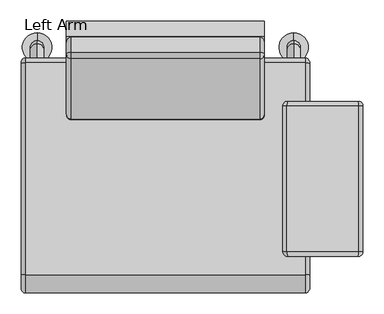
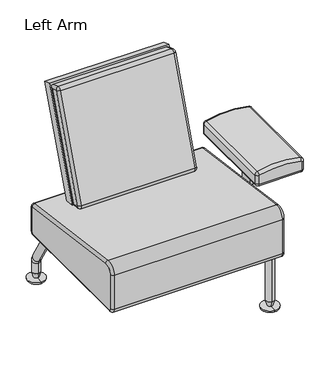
"""IFC4 building model written with IfcOpenShell, lengths in millimetres: furniture geometry, Steelcase Coalesse - Sidewalk - Seating - Collaborative Chair : Left Arm."""

from ifc_helpers import new_model, si_unit, point, frame, origin, place, context, project, spatial, polyline, circle_curve, ellipse_curve, trimmed, outline, extrude, source, transform, mapped, element, save
from ifc_brep_helpers import plane_surface, cylinder_surface, revolved_surface, advanced_brep


def left_arm_1d3a6ddb(model_context):
    return source(origin(), model_context, "Body", "SolidModel", [
        advanced_brep(
        [(122.9089794, 412.7742549, 335.1190448), (122.9089794, 414.1472627, 333.546102), (122.9089794, 414.1472627, 228.6), (122.9089794, 412.5597627, 227.0125), (122.9089794, -114.4902373, 227.0125), (122.9089794, -122.4277373, 234.95), (122.9089794, -122.4277373, 377.1837519), (122.9089794, -91.7938701, 403.9237811), (808.7089794, -91.7938701, 403.9237811), (808.7089794, -122.4277373, 377.1837519), (808.7089794, -122.4277373, 234.95), (808.7089794, -114.4902373, 227.0125), (808.7089794, 412.5597627, 227.0125), (808.7089794, 414.1472627, 228.6), (808.7089794, 414.1472627, 333.546102), (808.7089794, 412.7742549, 335.1190448), (797.5964794, -90.2924248, 414.9343814), (797.5964794, 414.2757002, 346.1296451), (134.0214794, 414.2757002, 346.1296451), (134.0214794, -90.2924248, 414.9343814), (797.5964794, 425.2597627, 333.546102), (134.0214794, 425.2597627, 333.546102), (797.5964794, 425.2597627, 228.6), (134.0214794, 425.2597627, 228.6), (797.5964794, 412.5597627, 215.9), (134.0214794, 412.5597627, 215.9), (797.5964794, -114.4902373, 215.9), (134.0214794, -114.4902373, 215.9), (797.5964794, -133.5402373, 234.95), (134.0214726, -133.5402373, 234.95), (797.5964794, -133.5402373, 377.1837519), (134.0214794, -133.5402373, 377.1837519)],
        [
            (0, 1, circle_curve(frame((122.9089794, 412.5597627, 333.546102), z_axis=(-1.0, 0.0, 0.0), x_axis=(0.0, 0.13511318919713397, 0.9908301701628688)), 1.5875)),
            (1, 2),
            (2, 3, circle_curve(frame((122.9089794, 412.5597627, 228.6), z_axis=(-1.0, 0.0, 0.0), x_axis=(0.0, 1.0, 0.0)), 1.5875)),
            (3, 4),
            (4, 5, circle_curve(frame((122.9089794, -114.4902373, 234.95), z_axis=(-1.0, 0.0, 0.0), x_axis=(0.0, 0.0, -1.0)), 7.9375)),
            (5, 6),
            (6, 7, circle_curve(frame((122.9089794, -95.4402373, 377.1837519), z_axis=(-1.0, 0.0, 0.0), x_axis=(0.0, -1.0, 0.0)), 26.9875)),
            (7, 0),
            (8, 9, circle_curve(frame((808.7089794, -95.4402373, 377.1837519), z_axis=(1.0, 0.0, 0.0), x_axis=(0.0, 0.13511318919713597, 0.9908301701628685)), 26.9875)),
            (9, 10),
            (10, 11, circle_curve(frame((808.7089794, -114.4902373, 234.95), z_axis=(1.0, 0.0, 0.0), x_axis=(0.0, -1.0, 0.0)), 7.9375)),
            (11, 12),
            (12, 13, circle_curve(frame((808.7089794, 412.5597627, 228.6), z_axis=(1.0, 0.0, 0.0), x_axis=(0.0, 0.0, -1.0)), 1.5875)),
            (13, 14),
            (14, 15, circle_curve(frame((808.7089794, 412.5597627, 333.546102), z_axis=(1.0, 0.0, 0.0), x_axis=(0.0, 1.0, 0.0)), 1.5875)),
            (15, 8),
            (16, 17),
            (17, 18),
            (18, 19),
            (19, 16),
            (17, 20, circle_curve(frame((797.5964794, 412.5597627, 333.546102), z_axis=(-1.0, 0.0, 0.0), x_axis=(0.0, -1.0, 0.0)), 12.7)),
            (20, 21),
            (21, 18, circle_curve(frame((134.0214794, 412.5597627, 333.546102), z_axis=(1.0, 0.0, 0.0), x_axis=(0.0, -1.0, 0.0)), 12.7)),
            (20, 22),
            (22, 23),
            (23, 21),
            (22, 24, circle_curve(frame((797.5964794, 412.5597627, 228.6), z_axis=(-1.0, 0.0, 0.0), x_axis=(0.0, -1.0, 0.0)), 12.7)),
            (24, 25),
            (25, 23, circle_curve(frame((134.0214794, 412.5597627, 228.6), z_axis=(1.0, 0.0, 0.0), x_axis=(0.0, -1.0, 0.0)), 12.7)),
            (24, 26),
            (26, 27),
            (27, 25),
            (26, 28, circle_curve(frame((797.5964794, -114.4902373, 234.95), z_axis=(-1.0, 0.0, 0.0), x_axis=(0.0, -1.0, 0.0)), 19.05)),
            (28, 29),
            (29, 27, circle_curve(frame((134.0214794, -114.4902373, 234.95), z_axis=(1.0, 0.0, 0.0), x_axis=(0.0, -1.0, 0.0)), 19.05)),
            (28, 30),
            (30, 31),
            (31, 29),
            (30, 16, circle_curve(frame((797.5964794, -95.4402373, 377.1837519), z_axis=(-1.0, 0.0, 0.0), x_axis=(0.0, -1.0, 0.0)), 38.1)),
            (19, 31, circle_curve(frame((134.0214794, -95.4402373, 377.1837519), z_axis=(1.0, 0.0, 0.0), x_axis=(0.0, -1.0, 0.0)), 38.1)),
            (30, 9, circle_curve(frame((797.5964794, -122.4277373, 377.1837519), z_axis=(0.0, 0.0, 0.9999999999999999), x_axis=(0.0, -0.9999999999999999, 0.0)), 11.1125)),
            (8, 16, circle_curve(frame((797.5964794, -91.7938701, 403.9237811), z_axis=(0.0, -0.9908301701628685, 0.13511318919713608), x_axis=(0.0, 0.13511318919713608, 0.9908301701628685)), 11.1125)),
            (28, 10, circle_curve(frame((797.5964794, -122.4277373, 234.95), z_axis=(0.0, 0.0, 1.0), x_axis=(0.0, -1.0, 0.0)), 11.1125)),
            (26, 11, circle_curve(frame((797.5964794, -114.4902373, 227.0125), z_axis=(0.0, -1.0, 0.0), x_axis=(0.0, 0.0, -1.0)), 11.1125)),
            (24, 12, circle_curve(frame((797.5964794, 412.5597627, 227.0125), z_axis=(0.0, -1.0, 0.0), x_axis=(0.0, 0.0, -1.0)), 11.1125)),
            (22, 13, circle_curve(frame((797.5964794, 414.1472627, 228.6), z_axis=(0.0, 0.0, -1.0), x_axis=(0.0, 1.0, 0.0)), 11.1125)),
            (20, 14, circle_curve(frame((797.5964794, 414.1472627, 333.546102), z_axis=(0.0, 0.0, -1.0), x_axis=(0.0, 1.0, 0.0)), 11.1125)),
            (17, 15, circle_curve(frame((797.5964794, 412.7742549, 335.1190448), z_axis=(0.0, 0.9908301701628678, -0.1351131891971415), x_axis=(0.0, 0.1351131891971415, 0.9908301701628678)), 11.1125)),
            (21, 1, circle_curve(frame((134.0214794, 414.1472627, 333.546102), z_axis=(0.0, 0.0, 1.0), x_axis=(0.0, -1.0, 0.0)), 11.1125)),
            (0, 18, circle_curve(frame((134.0214794, 412.7742549, 335.1190448), z_axis=(0.0, 0.9908301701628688, -0.13511318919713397), x_axis=(0.0, -0.13511318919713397, -0.9908301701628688)), 11.1125)),
            (23, 2, circle_curve(frame((134.0214794, 414.1472627, 228.6), z_axis=(0.0, 0.0, 1.0), x_axis=(0.0, -1.0, 0.0)), 11.1125)),
            (25, 3, circle_curve(frame((134.0214794, 412.5597627, 227.0125), z_axis=(0.0, 1.0, 0.0), x_axis=(0.0, 0.0, 1.0)), 11.1125)),
            (27, 4, circle_curve(frame((134.0214794, -114.4902373, 227.0125), z_axis=(0.0, 1.0, 0.0), x_axis=(0.0, 0.0, 1.0)), 11.1125)),
            (29, 5, circle_curve(frame((134.0214794, -122.4277373, 234.95), z_axis=(0.0, 0.0, -1.0), x_axis=(0.0, 1.0, 0.0)), 11.1125)),
            (31, 6, circle_curve(frame((134.0214794, -122.4277373, 377.1837519), z_axis=(0.0, 0.0, -1.0), x_axis=(0.0, 1.0, 0.0)), 11.1125)),
            (19, 7, circle_curve(frame((134.0214794, -91.7938701, 403.9237811), z_axis=(0.0, -0.9908301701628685, 0.1351131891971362), x_axis=(0.0, -0.1351131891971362, -0.9908301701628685)), 11.1125)),
        ],
        [
            plane_surface(frame((122.9089794, 564.9597627, 325.5818208), z_axis=(-1.0000000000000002, 0.0, 0.0), x_axis=(0.0, 0.9908301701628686, -0.1351131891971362))),
            plane_surface(frame((808.7089794, 564.9597627, 325.5818208), z_axis=(1.0000000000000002, 0.0, 0.0), x_axis=(0.0, -0.9908301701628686, 0.1351131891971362))),
            plane_surface(frame((122.9089794, -90.2924248, 414.9343814), z_axis=(0.0, 0.1351131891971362, 0.9908301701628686), x_axis=(1.0, 0.0, 0.0))),
            cylinder_surface(frame((808.7089794, 412.5597627, 333.546102), z_axis=(-1.0, 0.0, 0.0), x_axis=(0.0, -1.0, 0.0)), 12.7),
            plane_surface(frame((122.9089794, 425.2597627, 333.546102), z_axis=(0.0, 1.0, 0.0), x_axis=(1.0, 0.0, 0.0))),
            cylinder_surface(frame((808.7089794, 412.5597627, 228.6), z_axis=(-1.0, 0.0, 0.0), x_axis=(0.0, -1.0, 0.0)), 12.7),
            plane_surface(frame((122.9089794, 412.5597627, 215.9), z_axis=(0.0, 0.0, -1.0), x_axis=(1.0, 0.0, 0.0))),
            cylinder_surface(frame((808.7089794, -114.4902373, 234.95), z_axis=(-1.0, 0.0, 0.0), x_axis=(0.0, -1.0, 0.0)), 19.05),
            plane_surface(frame((122.9089794, -133.5402373, 234.95), z_axis=(0.0, -1.0, 0.0), x_axis=(1.0, 0.0, 0.0))),
            cylinder_surface(frame((808.7089794, -95.4402373, 377.1837519), z_axis=(-1.0, 0.0, 0.0), x_axis=(0.0, -1.0, 0.0)), 38.1),
            revolved_surface(trimmed(ellipse_curve(frame((797.5964794, -91.7938701, 403.9237811), z_axis=(0.0, 0.9908301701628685, -0.13511318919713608), x_axis=(0.0, 0.13511318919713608, 0.9908301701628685)), 11.1125, 11.1125), [point((797.5964794, -90.2924248, 414.9343814))], [point((808.7089794, -91.7938701, 403.9237811))], True, "CARTESIAN"), (808.7089794, -95.4402373, 377.1837519), (1.0, 0.0, 0.0)),
            cylinder_surface(frame((797.5964794, -122.4277373, 377.1837519), z_axis=(0.0, 0.0, -1.0), x_axis=(0.0, -1.0, 0.0)), 11.1125),
            revolved_surface(trimmed(ellipse_curve(frame((797.5964794, -122.4277373, 234.95), z_axis=(0.0, 0.0, 1.0), x_axis=(0.0, -1.0, 0.0)), 11.1125, 11.1125), [point((797.5964794, -133.5402373, 234.95))], [point((808.7089794, -122.4277373, 234.95))], True, "CARTESIAN"), (808.7089794, -114.4902373, 234.95), (1.0, 0.0, 0.0)),
            cylinder_surface(frame((797.5964794, -114.4902373, 227.0125), z_axis=(0.0, 1.0, 0.0), x_axis=(0.0, 0.0, -1.0)), 11.1125),
            revolved_surface(trimmed(ellipse_curve(frame((797.5964794, 412.5597627, 227.0125), z_axis=(0.0, -1.0, 0.0), x_axis=(0.0, 0.0, -1.0)), 11.1125, 11.1125), [point((797.5964794, 412.5597627, 215.9))], [point((808.7089794, 412.5597627, 227.0125))], True, "CARTESIAN"), (808.7089794, 412.5597627, 228.6), (1.0, 0.0, 0.0)),
            cylinder_surface(frame((797.5964794, 414.1472627, 228.6), z_axis=(0.0, 0.0, 1.0), x_axis=(0.0, 1.0, 0.0)), 11.1125),
            revolved_surface(trimmed(ellipse_curve(frame((797.5964794, 414.1472627, 333.546102), z_axis=(0.0, 0.0, -1.0), x_axis=(0.0, 1.0, 0.0)), 11.1125, 11.1125), [point((797.5964794, 425.2597627, 333.546102))], [point((808.7089794, 414.1472627, 333.546102))], True, "CARTESIAN"), (808.7089794, 412.5597627, 333.546102), (1.0, 0.0, 0.0)),
            cylinder_surface(frame((797.5964794, 412.7742549, 335.1190448), z_axis=(0.0, -0.9908301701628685, 0.13511318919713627), x_axis=(0.0, 0.13511318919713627, 0.9908301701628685)), 11.1125),
            revolved_surface(trimmed(ellipse_curve(frame((134.0214794, 412.7742549, 335.1190448), z_axis=(0.0, -0.9908301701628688, 0.13511318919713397), x_axis=(0.0, -0.13511318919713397, -0.9908301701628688)), 11.1125, 11.1125), [point((134.0214794, 414.2757002, 346.1296451))], [point((122.9089794, 412.7742549, 335.1190448))], True, "CARTESIAN"), (122.9089794, 412.5597627, 333.546102), (-1.0, 0.0, 0.0)),
            cylinder_surface(frame((134.0214794, 414.1472627, 333.546102), z_axis=(0.0, 0.0, -1.0), x_axis=(0.0, -1.0, 0.0)), 11.1125),
            revolved_surface(trimmed(ellipse_curve(frame((134.0214794, 414.1472627, 228.6), z_axis=(0.0, 0.0, 1.0), x_axis=(0.0, -1.0, 0.0)), 11.1125, 11.1125), [point((134.0214794, 425.2597627, 228.6))], [point((122.9089794, 414.1472627, 228.6))], True, "CARTESIAN"), (122.9089794, 412.5597627, 228.6), (-1.0, 0.0, 0.0)),
            cylinder_surface(frame((134.0214794, 412.5597627, 227.0125), z_axis=(0.0, -1.0, 0.0), x_axis=(0.0, 0.0, 1.0)), 11.1125),
            revolved_surface(trimmed(ellipse_curve(frame((134.0214794, -114.4902373, 227.0125), z_axis=(0.0, 1.0, 0.0), x_axis=(0.0, 0.0, 1.0)), 11.1125, 11.1125), [point((134.0214794, -114.4902373, 215.9))], [point((122.9089794, -114.4902373, 227.0125))], True, "CARTESIAN"), (122.9089794, -114.4902373, 234.95), (-1.0, 0.0, 0.0)),
            cylinder_surface(frame((134.0214794, -122.4277373, 234.95), z_axis=(0.0, 0.0, 1.0), x_axis=(0.0, 1.0, 0.0)), 11.1125),
            revolved_surface(trimmed(ellipse_curve(frame((134.0214794, -122.4277373, 377.1837519), z_axis=(0.0, 0.0, -1.0), x_axis=(0.0, 1.0, 0.0)), 11.1125, 11.1125), [point((134.0214794, -133.5402373, 377.1837519))], [point((122.9089794, -122.4277373, 377.1837519))], True, "CARTESIAN"), (122.9089794, -95.4402373, 377.1837519), (-1.0, 0.0, 0.0)),
            cylinder_surface(frame((134.0214794, -91.7938701, 403.9237811), z_axis=(0.0, 0.9908301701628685, -0.1351131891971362), x_axis=(0.0, -0.1351131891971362, -0.9908301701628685)), 11.1125),
        ],
        [
            (0, [[1, 2, 3, 4, 5, 6, 7, 8]]),
            (1, [[9, 10, 11, 12, 13, 14, 15, 16]]),
            (2, [[17, 18, 19, 20]]),
            (3, [[21, 22, 23, -18]]),
            (4, [[24, 25, 26, -22]]),
            (5, [[27, 28, 29, -25]]),
            (6, [[30, 31, 32, -28]]),
            (7, [[33, 34, 35, -31]]),
            (8, [[36, 37, 38, -34]]),
            (9, [[39, -20, 40, -37]]),
            (10, [[41, -9, 42, -39]]),
            (11, [[-41, -36, 43, -10]]),
            (12, [[-43, -33, 44, -11]]),
            (13, [[-44, -30, 45, -12]]),
            (14, [[-45, -27, 46, -13]]),
            (15, [[-46, -24, 47, -14]]),
            (16, [[-47, -21, 48, -15]]),
            (17, [[-42, -16, -48, -17]]),
            (18, [[49, -1, 50, -23]]),
            (19, [[-49, -26, 51, -2]]),
            (20, [[-51, -29, 52, -3]]),
            (21, [[-52, -32, 53, -4]]),
            (22, [[-53, -35, 54, -5]]),
            (23, [[-54, -38, 55, -6]]),
            (24, [[-55, -40, 56, -7]]),
            (25, [[-50, -8, -56, -19]]),
        ],
    ),
        advanced_brep(
        [(923.9725321, -46.3480901, 523.5679776), (922.7611862, -46.3480901, 525.1102695), (756.908878, -46.3480901, 525.1102695), (755.6975321, -46.3480901, 523.5679776), (755.6975321, -46.3480901, 488.95), (757.2850321, -46.3480901, 487.3625), (922.3850321, -46.3480901, 487.3625), (923.9725321, -46.3480901, 488.95), (755.6975321, 321.9519099, 523.5679776), (756.908878, 321.9519099, 525.1102695), (922.7611862, 321.9519099, 525.1102695), (923.9725321, 321.9519099, 523.5679776), (923.9725321, 321.9519099, 488.95), (922.3850321, 321.9519099, 487.3625), (757.2850321, 321.9519099, 487.3625), (755.6975321, 321.9519099, 488.95), (922.3850321, -35.2355901, 476.25), (757.2850321, -35.2355901, 476.25), (757.2850321, 310.8394099, 476.25), (922.3850321, 310.8394099, 476.25), (935.0850321, -35.2355901, 488.95), (935.0850321, 310.8394099, 488.95), (935.0850321, -35.2355901, 523.5679776), (935.0850321, 310.8394099, 523.5679776), (925.394265, -35.2355901, 535.9063129), (925.394265, 310.8394099, 535.9063129), (754.2757993, -35.2355901, 535.9063129), (754.2757993, 310.8394099, 535.9063129), (744.5850321, -35.2355901, 523.5679776), (744.5850321, 310.8394099, 523.5679776), (744.5850321, -35.2355901, 488.95), (744.5850321, 310.8394099, 488.95)],
        [
            (0, 1, circle_curve(frame((922.3850321, -46.3480901, 523.5679776), z_axis=(0.0, -1.0, 0.0), x_axis=(0.23694746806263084, 0.0, 0.9715224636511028)), 1.5875)),
            (1, 2, circle_curve(frame((839.8350321, -46.3480901, 185.0997929), z_axis=(0.0, -1.0, 0.0), x_axis=(-0.23694746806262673, 0.0, 0.971522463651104)), 349.9769581)),
            (2, 3, circle_curve(frame((757.2850321, -46.3480901, 523.5679776), z_axis=(0.0, -1.0, 0.0), x_axis=(-1.0, 0.0, 0.0)), 1.5875)),
            (3, 4),
            (4, 5, circle_curve(frame((757.2850321, -46.3480901, 488.95), z_axis=(0.0, -1.0, 0.0), x_axis=(0.0, 0.0, -1.0)), 1.5875)),
            (5, 6),
            (6, 7, circle_curve(frame((922.3850321, -46.3480901, 488.95), z_axis=(0.0, -1.0, 0.0), x_axis=(1.0, 0.0, 0.0)), 1.5875)),
            (7, 0),
            (8, 9, circle_curve(frame((757.2850321, 321.9519099, 523.5679776), z_axis=(0.0, 1.0, 0.0), x_axis=(-0.2369474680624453, 0.0, 0.9715224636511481)), 1.5875)),
            (9, 10, circle_curve(frame((839.8350321, 321.9519099, 185.0997929), z_axis=(0.0, 1.0, 0.0), x_axis=(0.23694746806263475, 0.0, 0.971522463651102)), 349.9769581)),
            (10, 11, circle_curve(frame((922.3850321, 321.9519099, 523.5679776), z_axis=(0.0, 1.0, 0.0), x_axis=(1.0, 0.0, 0.0)), 1.5875)),
            (11, 12),
            (12, 13, circle_curve(frame((922.3850321, 321.9519099, 488.95), z_axis=(0.0, 1.0, 0.0), x_axis=(0.0, 0.0, -1.0)), 1.5875)),
            (13, 14),
            (14, 15, circle_curve(frame((757.2850321, 321.9519099, 488.95), z_axis=(0.0, 1.0, 0.0), x_axis=(-1.0, 0.0, 0.0)), 1.5875)),
            (15, 8),
            (16, 17),
            (17, 18),
            (18, 19),
            (19, 16),
            (20, 16, circle_curve(frame((922.3850321, -35.2355901, 488.95), z_axis=(0.0, 1.0, 0.0), x_axis=(-1.0, 0.0, 0.0)), 12.7)),
            (19, 21, circle_curve(frame((922.3850321, 310.8394099, 488.95), z_axis=(0.0, -1.0, 0.0), x_axis=(-1.0, 0.0, 0.0)), 12.7)),
            (21, 20),
            (22, 20),
            (21, 23),
            (23, 22),
            (24, 22, circle_curve(frame((922.3850321, -35.2355901, 523.5679776), z_axis=(0.0, 1.0, 0.0), x_axis=(-1.0, 0.0, 0.0)), 12.7)),
            (23, 25, circle_curve(frame((922.3850321, 310.8394099, 523.5679776), z_axis=(0.0, -1.0, 0.0), x_axis=(-1.0, 0.0, 0.0)), 12.7)),
            (25, 24),
            (26, 24, circle_curve(frame((839.8350321, -35.2355901, 185.0997929), z_axis=(0.0, 1.0, 0.0), x_axis=(-1.0, 0.0, 0.0)), 361.0894581)),
            (25, 27, circle_curve(frame((839.8350321, 310.8394099, 185.0997929), z_axis=(0.0, -1.0, 0.0), x_axis=(-1.0, 0.0, 0.0)), 361.0894581)),
            (27, 26),
            (28, 26, circle_curve(frame((757.2850321, -35.2355901, 523.5679776), z_axis=(0.0, 1.0, 0.0), x_axis=(-1.0, 0.0, 0.0)), 12.7)),
            (27, 29, circle_curve(frame((757.2850321, 310.8394099, 523.5679776), z_axis=(0.0, -1.0, 0.0), x_axis=(-1.0, 0.0, 0.0)), 12.7)),
            (29, 28),
            (30, 28),
            (29, 31),
            (31, 30),
            (17, 30, circle_curve(frame((757.2850321, -35.2355901, 488.95), z_axis=(0.0, 1.0, 0.0), x_axis=(-1.0, 0.0, 0.0)), 12.7)),
            (31, 18, circle_curve(frame((757.2850321, 310.8394099, 488.95), z_axis=(0.0, -1.0, 0.0), x_axis=(-1.0, 0.0, 0.0)), 12.7)),
            (0, 22, circle_curve(frame((923.9725321, -35.2355901, 523.5679776), z_axis=(0.0, 0.0, 1.0), x_axis=(-1.0, 0.0, 0.0)), 11.1125)),
            (24, 1, circle_curve(frame((922.7611862, -35.2355901, 525.1102695), z_axis=(0.9715224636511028, 0.0, -0.23694746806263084), x_axis=(-0.23694746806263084, 0.0, -0.9715224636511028)), 11.1125)),
            (7, 20, circle_curve(frame((923.9725321, -35.2355901, 488.95), z_axis=(0.0, 0.0, 1.0), x_axis=(-1.0, 0.0, 0.0)), 11.1125)),
            (6, 16, circle_curve(frame((922.3850321, -35.2355901, 487.3625), z_axis=(1.0, 0.0, 0.0), x_axis=(0.0, 0.0, 1.0)), 11.1125)),
            (5, 17, circle_curve(frame((757.2850321, -35.2355901, 487.3625), z_axis=(1.0, 0.0, 0.0), x_axis=(0.0, 0.0, 1.0)), 11.1125)),
            (4, 30, circle_curve(frame((755.6975321, -35.2355901, 488.95), z_axis=(0.0, 0.0, -1.0), x_axis=(1.0, 0.0, 0.0)), 11.1125)),
            (3, 28, circle_curve(frame((755.6975321, -35.2355901, 523.5679776), z_axis=(0.0, 0.0, -1.0), x_axis=(1.0, 0.0, 0.0)), 11.1125)),
            (2, 26, circle_curve(frame((756.908878, -35.2355901, 525.1102695), z_axis=(-0.9715224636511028, 0.0, -0.23694746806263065), x_axis=(0.23694746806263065, 0.0, -0.9715224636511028)), 11.1125)),
            (8, 29, circle_curve(frame((755.6975321, 310.8394099, 523.5679776), z_axis=(0.0, 0.0, 1.0), x_axis=(-1.0, 0.0, 0.0)), 11.1125)),
            (27, 9, circle_curve(frame((756.908878, 310.8394099, 525.1102695), z_axis=(-0.9715224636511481, 0.0, -0.23694746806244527), x_axis=(-0.23694746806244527, 0.0, 0.9715224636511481)), 11.1125)),
            (15, 31, circle_curve(frame((755.6975321, 310.8394099, 488.95), z_axis=(0.0, 0.0, 1.0), x_axis=(-1.0, 0.0, 0.0)), 11.1125)),
            (14, 18, circle_curve(frame((757.2850321, 310.8394099, 487.3625), z_axis=(-1.0, 0.0, 0.0), x_axis=(0.0, 0.0, -1.0)), 11.1125)),
            (13, 19, circle_curve(frame((922.3850321, 310.8394099, 487.3625), z_axis=(-1.0, 0.0, 0.0), x_axis=(0.0, 0.0, -1.0)), 11.1125)),
            (12, 21, circle_curve(frame((923.9725321, 310.8394099, 488.95), z_axis=(0.0, 0.0, -1.0), x_axis=(1.0, 0.0, 0.0)), 11.1125)),
            (11, 23, circle_curve(frame((923.9725321, 310.8394099, 523.5679776), z_axis=(0.0, 0.0, -1.0), x_axis=(1.0, 0.0, 0.0)), 11.1125)),
            (10, 25, circle_curve(frame((922.7611862, 310.8394099, 525.1102695), z_axis=(0.9715224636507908, 0.0, -0.23694746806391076), x_axis=(0.23694746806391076, 0.0, 0.9715224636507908)), 11.1125)),
        ],
        [
            plane_surface(frame((935.0850321, -46.3480901, 476.25), z_axis=(0.0, -1.0, 0.0), x_axis=(1.0, 0.0, 0.0))),
            plane_surface(frame((935.0850321, 321.9519099, 476.25), z_axis=(0.0, 1.0, 0.0), x_axis=(-1.0, 0.0, 0.0))),
            plane_surface(frame((757.2850321, -46.3480901, 476.25), z_axis=(0.0, 0.0, -1.0), x_axis=(0.0, 1.0, 0.0))),
            cylinder_surface(frame((922.3850321, 321.9519099, 488.95), z_axis=(0.0, -1.0, 0.0), x_axis=(-1.0, 0.0, 0.0)), 12.7),
            plane_surface(frame((935.0850321, -46.3480901, 488.95), z_axis=(1.0, 0.0, 0.0), x_axis=(0.0, 1.0, 0.0))),
            cylinder_surface(frame((922.3850321, 321.9519099, 523.5679776), z_axis=(0.0, -1.0, 0.0), x_axis=(-1.0, 0.0, 0.0)), 12.7),
            cylinder_surface(frame((839.8350321, 321.9519099, 185.0997929), z_axis=(0.0, -1.0, 0.0), x_axis=(-1.0, 0.0, 0.0)), 361.0894581),
            cylinder_surface(frame((757.2850321, 321.9519099, 523.5679776), z_axis=(0.0, -1.0, 0.0), x_axis=(-1.0, 0.0, 0.0)), 12.7),
            plane_surface(frame((744.5850321, -46.3480901, 523.5679776), z_axis=(-1.0, 0.0, 0.0), x_axis=(0.0, 1.0, 0.0))),
            cylinder_surface(frame((757.2850321, 321.9519099, 488.95), z_axis=(0.0, -1.0, 0.0), x_axis=(-1.0, 0.0, 0.0)), 12.7),
            revolved_surface(trimmed(ellipse_curve(frame((922.7611862, -35.2355901, 525.1102695), z_axis=(-0.9715224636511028, 0.0, 0.23694746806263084), x_axis=(-0.23694746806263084, 0.0, -0.9715224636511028)), 11.1125, 11.1125), [point((922.7611862, -46.3480901, 525.1102695))], [point((925.394265, -35.2355901, 535.9063129))], True, "CARTESIAN"), (922.3850321, -46.3480901, 523.5679776), (0.0, 1.0, 0.0)),
            cylinder_surface(frame((923.9725321, -35.2355901, 523.5679776), z_axis=(0.0, 0.0, -1.0), x_axis=(-1.0, 0.0, 0.0)), 11.1125),
            revolved_surface(trimmed(ellipse_curve(frame((923.9725321, -35.2355901, 488.95), z_axis=(0.0, 0.0, 1.0), x_axis=(-1.0, 0.0, 0.0)), 11.1125, 11.1125), [point((923.9725321, -46.3480901, 488.95))], [point((935.0850321, -35.2355901, 488.95))], True, "CARTESIAN"), (922.3850321, -46.3480901, 488.95), (0.0, 1.0, 0.0)),
            cylinder_surface(frame((922.3850321, -35.2355901, 487.3625), z_axis=(-1.0, 0.0, 0.0), x_axis=(0.0, 0.0, 1.0)), 11.1125),
            revolved_surface(trimmed(ellipse_curve(frame((757.2850321, -35.2355901, 487.3625), z_axis=(1.0, 0.0, 0.0), x_axis=(0.0, 0.0, 1.0)), 11.1125, 11.1125), [point((757.2850321, -46.3480901, 487.3625))], [point((757.2850321, -35.2355901, 476.25))], True, "CARTESIAN"), (757.2850321, -46.3480901, 488.95), (0.0, 1.0, 0.0)),
            cylinder_surface(frame((755.6975321, -35.2355901, 488.95), z_axis=(0.0, 0.0, 1.0), x_axis=(1.0, 0.0, 0.0)), 11.1125),
            revolved_surface(trimmed(ellipse_curve(frame((755.6975321, -35.2355901, 523.5679776), z_axis=(0.0, 0.0, -1.0), x_axis=(1.0, 0.0, 0.0)), 11.1125, 11.1125), [point((755.6975321, -46.3480901, 523.5679776))], [point((744.5850321, -35.2355901, 523.5679776))], True, "CARTESIAN"), (757.2850321, -46.3480901, 523.5679776), (0.0, 1.0, 0.0)),
            revolved_surface(trimmed(ellipse_curve(frame((756.908878, -35.2355901, 525.1102695), z_axis=(-0.971522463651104, 0.0, -0.23694746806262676), x_axis=(0.23694746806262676, 0.0, -0.971522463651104)), 11.1125, 11.1125), [point((756.908878, -46.3480901, 525.1102695))], [point((754.2757993, -35.2355901, 535.9063129))], True, "CARTESIAN"), (839.8350321, -46.3480901, 185.0997929), (0.0, 1.0, 0.0)),
            revolved_surface(trimmed(ellipse_curve(frame((756.908878, 310.8394099, 525.1102695), z_axis=(0.9715224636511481, 0.0, 0.23694746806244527), x_axis=(-0.23694746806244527, 0.0, 0.9715224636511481)), 11.1125, 11.1125), [point((756.908878, 321.9519099, 525.1102695))], [point((754.2757993, 310.8394099, 535.9063129))], True, "CARTESIAN"), (757.2850321, 321.9519099, 523.5679776), (0.0, -1.0, 0.0)),
            cylinder_surface(frame((755.6975321, 310.8394099, 523.5679776), z_axis=(0.0, 0.0, -1.0), x_axis=(-1.0, 0.0, 0.0)), 11.1125),
            revolved_surface(trimmed(ellipse_curve(frame((755.6975321, 310.8394099, 488.95), z_axis=(0.0, 0.0, 1.0), x_axis=(-1.0, 0.0, 0.0)), 11.1125, 11.1125), [point((755.6975321, 321.9519099, 488.95))], [point((744.5850321, 310.8394099, 488.95))], True, "CARTESIAN"), (757.2850321, 321.9519099, 488.95), (0.0, -1.0, 0.0)),
            cylinder_surface(frame((757.2850321, 310.8394099, 487.3625), z_axis=(1.0, 0.0, 0.0), x_axis=(0.0, 0.0, -1.0)), 11.1125),
            revolved_surface(trimmed(ellipse_curve(frame((922.3850321, 310.8394099, 487.3625), z_axis=(-1.0, 0.0, 0.0), x_axis=(0.0, 0.0, -1.0)), 11.1125, 11.1125), [point((922.3850321, 321.9519099, 487.3625))], [point((922.3850321, 310.8394099, 476.25))], True, "CARTESIAN"), (922.3850321, 321.9519099, 488.95), (0.0, -1.0, 0.0)),
            cylinder_surface(frame((923.9725321, 310.8394099, 488.95), z_axis=(0.0, 0.0, 1.0), x_axis=(1.0, 0.0, 0.0)), 11.1125),
            revolved_surface(trimmed(ellipse_curve(frame((923.9725321, 310.8394099, 523.5679776), z_axis=(0.0, 0.0, -1.0), x_axis=(1.0, 0.0, 0.0)), 11.1125, 11.1125), [point((923.9725321, 321.9519099, 523.5679776))], [point((935.0850321, 310.8394099, 523.5679776))], True, "CARTESIAN"), (922.3850321, 321.9519099, 523.5679776), (0.0, -1.0, 0.0)),
            revolved_surface(trimmed(ellipse_curve(frame((922.7611862, 310.8394099, 525.1102695), z_axis=(0.971522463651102, 0.0, -0.2369474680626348), x_axis=(0.2369474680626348, 0.0, 0.971522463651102)), 11.1125, 11.1125), [point((922.7611862, 321.9519099, 525.1102695))], [point((925.394265, 310.8394099, 535.9063129))], True, "CARTESIAN"), (839.8350321, 321.9519099, 185.0997929), (0.0, -1.0, 0.0)),
        ],
        [
            (0, [[1, 2, 3, 4, 5, 6, 7, 8]]),
            (1, [[9, 10, 11, 12, 13, 14, 15, 16]]),
            (2, [[17, 18, 19, 20]]),
            (3, [[21, -20, 22, 23]]),
            (4, [[24, -23, 25, 26]]),
            (5, [[27, -26, 28, 29]]),
            (6, [[30, -29, 31, 32]]),
            (7, [[33, -32, 34, 35]]),
            (8, [[36, -35, 37, 38]]),
            (9, [[39, -38, 40, -18]]),
            (10, [[41, -27, 42, -1]]),
            (11, [[-41, -8, 43, -24]]),
            (12, [[-43, -7, 44, -21]]),
            (13, [[-44, -6, 45, -17]]),
            (14, [[-45, -5, 46, -39]]),
            (15, [[-46, -4, 47, -36]]),
            (16, [[-47, -3, 48, -33]]),
            (17, [[-42, -30, -48, -2]]),
            (18, [[49, -34, 50, -9]]),
            (19, [[-49, -16, 51, -37]]),
            (20, [[-51, -15, 52, -40]]),
            (21, [[-52, -14, 53, -19]]),
            (22, [[-53, -13, 54, -22]]),
            (23, [[-54, -12, 55, -25]]),
            (24, [[-55, -11, 56, -28]]),
            (25, [[-50, -31, -56, -10]]),
        ],
    ),
        extrude(outline(polyline([(207.2866207, 822.6014668), (476.25, 822.6014668), (476.25, 809.9014668), (213.6366207, 809.9014668), (213.6366207, 733.7014668), (207.2866207, 733.7014668), (207.2866207, 822.6014668)])), frame((0.0, 112.4019099, 0.0), z_axis=(0.0, 1.0, 0.0), x_axis=(0.0, 0.0, 1.0)), (0.0, 0.0, 1.0), 50.8),
        advanced_brep(
        [(230.8589764, 435.601958, 772.4897206), (230.8589764, 460.9619318, 763.2594642), (230.8589764, 317.9995565, 370.4735514), (230.8589764, 290.9791404, 374.1581532), (230.8589764, 289.7018705, 376.274053), (230.8589764, 433.56724, 771.5409151), (700.7589825, 289.7018705, 376.274053), (700.7589825, 290.9791404, 374.1581532), (700.7589825, 317.9995565, 370.4735514), (700.7589825, 460.9619318, 763.2594642), (700.7589825, 435.601958, 772.4897206), (700.7589825, 433.56724, 771.5409151), (241.9714764, 475.2049673, 769.9011067), (241.9714764, 439.4026498, 782.9320574), (689.6464825, 439.4026498, 782.9320574), (689.6464825, 475.2049673, 769.9011067), (241.9714764, 325.3770207, 358.2521909), (689.6464825, 325.3770207, 358.2521909), (241.9714764, 289.477695, 363.1475529), (689.6464825, 289.477695, 363.1475529), (241.9714764, 279.2595362, 380.0747518), (689.6464825, 279.2595362, 380.0747518), (241.9714764, 423.1249057, 775.3416139), (689.6464825, 423.1249057, 775.3416139)],
        [
            (0, 1),
            (1, 2),
            (2, 3),
            (3, 4, circle_curve(frame((230.8589764, 291.1936325, 375.7310961), z_axis=(-1.0, 0.0, 0.0), x_axis=(0.0, -0.13511318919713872, -0.9908301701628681)), 1.5875)),
            (4, 5),
            (5, 0, circle_curve(frame((230.8589764, 435.059002, 770.9979582), z_axis=(-1.0, 0.0, 0.0), x_axis=(0.0, -0.9396926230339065, 0.3420201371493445)), 1.5875)),
            (6, 7, circle_curve(frame((700.7589825, 291.1936325, 375.7310961), z_axis=(1.0, 0.0, 0.0), x_axis=(0.0, -0.9396926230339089, 0.3420201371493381)), 1.5875)),
            (7, 8),
            (8, 9),
            (9, 10),
            (10, 11, circle_curve(frame((700.7589825, 435.059002, 770.9979582), z_axis=(1.0, 0.0, 0.0), x_axis=(0.0, 0.34201951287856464, 0.939692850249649)), 1.5875)),
            (11, 6),
            (12, 13),
            (13, 14),
            (14, 15),
            (15, 12),
            (16, 12),
            (15, 17),
            (17, 16),
            (18, 16),
            (17, 19),
            (19, 18),
            (20, 18, circle_curve(frame((241.9714764, 291.1936325, 375.7310961), z_axis=(1.0, 0.0, 0.0), x_axis=(0.0, -1.0, 0.0)), 12.7)),
            (19, 21, circle_curve(frame((689.6464825, 291.1936325, 375.7310961), z_axis=(-1.0, 0.0, 0.0), x_axis=(0.0, -1.0, 0.0)), 12.7)),
            (21, 20),
            (22, 20),
            (21, 23),
            (23, 22),
            (13, 22, circle_curve(frame((241.9714764, 435.059002, 770.9979582), z_axis=(1.0, 0.0, 0.0), x_axis=(0.0, -1.0, 0.0)), 12.7)),
            (23, 14, circle_curve(frame((689.6464825, 435.059002, 770.9979582), z_axis=(-1.0, 0.0, 0.0), x_axis=(0.0, -1.0, 0.0)), 12.7)),
            (12, 1, ellipse_curve(frame((241.9714764, 460.9619318, 763.2594642), z_axis=(0.0, -0.4226185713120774, 0.9063076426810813), x_axis=(0.0, 0.9063076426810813, 0.4226185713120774)), 15.7154534, 11.1125)),
            (0, 13, circle_curve(frame((241.9714764, 435.601958, 772.4897206), z_axis=(0.0, 0.9396928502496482, -0.34201951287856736), x_axis=(0.0, -0.3420195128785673, -0.939692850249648)), 11.1125)),
            (16, 2, ellipse_curve(frame((241.9714764, 317.9995565, 370.4735514), z_axis=(0.0, 0.8561100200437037, 0.5167936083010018), x_axis=(0.0, 0.5167936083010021, -0.8561100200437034)), 14.2754555, 11.1125)),
            (18, 3, circle_curve(frame((241.9714764, 290.9791404, 374.1581532), z_axis=(0.0, 0.9908301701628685, -0.13511318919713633), x_axis=(0.0, 0.13511318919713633, 0.9908301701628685)), 11.1125)),
            (20, 4, circle_curve(frame((241.9714764, 289.7018705, 376.274053), z_axis=(0.0, -0.3420201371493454, -0.9396926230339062), x_axis=(0.0, 0.9396926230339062, -0.3420201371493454)), 11.1125)),
            (22, 5, circle_curve(frame((241.9714764, 433.56724, 771.5409151), z_axis=(0.0, -0.34202013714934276, -0.9396926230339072), x_axis=(0.0, 0.9396926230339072, -0.34202013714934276)), 11.1125)),
            (19, 7, circle_curve(frame((689.6464825, 290.9791404, 374.1581532), z_axis=(0.0, -0.9908301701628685, 0.13511318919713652), x_axis=(0.0, -0.13511318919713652, -0.9908301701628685)), 11.1125)),
            (6, 21, circle_curve(frame((689.6464825, 289.7018705, 376.274053), z_axis=(0.0, -0.34202013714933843, -0.9396926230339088), x_axis=(0.0, -0.9396926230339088, 0.34202013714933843)), 11.1125)),
            (17, 8, ellipse_curve(frame((689.6464825, 317.9995565, 370.4735514), z_axis=(0.0, -0.8561100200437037, -0.5167936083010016), x_axis=(0.0, 0.5167936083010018, -0.8561100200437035)), 14.2754555, 11.1125)),
            (15, 9, ellipse_curve(frame((689.6464825, 460.9619318, 763.2594642), z_axis=(0.0, 0.4226185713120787, -0.9063076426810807), x_axis=(0.0, 0.9063076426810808, 0.42261857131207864)), 15.7154534, 11.1125)),
            (14, 10, circle_curve(frame((689.6464825, 435.601958, 772.4897206), z_axis=(0.0, 0.9396928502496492, -0.3420195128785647), x_axis=(0.0, 0.34201951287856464, 0.939692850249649)), 11.1125)),
            (23, 11, circle_curve(frame((689.6464825, 433.56724, 771.5409151), z_axis=(0.0, 0.34202013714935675, 0.939692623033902), x_axis=(0.0, -0.939692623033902, 0.34202013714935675)), 11.1125)),
        ],
        [
            plane_surface(frame((230.8589764, 476.9677554, 769.2595057), z_axis=(-1.0, 0.0, 0.0), x_axis=(0.0, 0.9396928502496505, -0.3420195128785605))),
            plane_surface(frame((700.7589825, 476.9677554, 769.2595057), z_axis=(1.0, 0.0, 0.0), x_axis=(0.0, -0.9396928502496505, 0.3420195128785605))),
            plane_surface(frame((230.8589764, 439.4026498, 782.9320574), z_axis=(0.0, 0.3420195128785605, 0.9396928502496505), x_axis=(1.0, 0.0, 0.0))),
            plane_surface(frame((230.8589764, 475.2049673, 769.9011067), z_axis=(0.0, 0.939692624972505, -0.34202013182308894), x_axis=(1.0, 0.0, 0.0))),
            plane_surface(frame((230.8589764, 325.3770207, 358.2521909), z_axis=(0.0, -0.13511318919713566, -0.9908301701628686), x_axis=(1.0, 0.0, 0.0))),
            cylinder_surface(frame((700.7589825, 291.1936325, 375.7310961), z_axis=(-1.0, 0.0, 0.0), x_axis=(0.0, -1.0, 0.0)), 12.7),
            plane_surface(frame((230.8589764, 279.2595362, 380.0747518), z_axis=(0.0, -0.9396926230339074, 0.3420201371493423), x_axis=(1.0, 0.0, 0.0))),
            cylinder_surface(frame((700.7589825, 435.059002, 770.9979582), z_axis=(-1.0, 0.0, 0.0), x_axis=(0.0, -1.0, 0.0)), 12.7),
            cylinder_surface(frame((241.9714764, 435.601958, 772.4897206), z_axis=(0.0, 0.939692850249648, -0.3420195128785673), x_axis=(0.0, -0.3420195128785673, -0.939692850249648)), 11.1125),
            cylinder_surface(frame((241.9714764, 464.762633, 773.7018054), z_axis=(0.0, -0.3420201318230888, -0.939692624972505), x_axis=(0.0, -0.939692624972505, 0.3420201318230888)), 11.1125),
            cylinder_surface(frame((241.9714764, 326.878466, 369.2627912), z_axis=(0.0, -0.9908301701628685, 0.13511318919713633), x_axis=(0.0, 0.13511318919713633, 0.9908301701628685)), 11.1125),
            revolved_surface(trimmed(ellipse_curve(frame((241.9714764, 290.9791404, 374.1581532), z_axis=(0.0, 0.9908301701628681, -0.1351131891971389), x_axis=(0.0, 0.1351131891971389, 0.9908301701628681)), 11.1125, 11.1125), [point((241.9714764, 289.477695, 363.1475529))], [point((230.8589764, 290.9791404, 374.1581532))], True, "CARTESIAN"), (230.8589764, 291.1936325, 375.7310961), (-1.0, 0.0, 0.0)),
            cylinder_surface(frame((241.9714764, 289.7018705, 376.274053), z_axis=(0.0, 0.34202013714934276, 0.9396926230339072), x_axis=(0.0, 0.9396926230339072, -0.34202013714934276)), 11.1125),
            revolved_surface(trimmed(ellipse_curve(frame((241.9714764, 433.56724, 771.5409151), z_axis=(0.0, -0.342020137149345, -0.9396926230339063), x_axis=(0.0, 0.9396926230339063, -0.342020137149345)), 11.1125, 11.1125), [point((241.9714764, 423.1249057, 775.3416139))], [point((230.8589764, 433.56724, 771.5409151))], True, "CARTESIAN"), (230.8589764, 435.059002, 770.9979582), (-1.0, 0.0, 0.0)),
            revolved_surface(trimmed(ellipse_curve(frame((689.6464825, 289.7018705, 376.274053), z_axis=(0.0, 0.34202013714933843, 0.9396926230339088), x_axis=(0.0, -0.9396926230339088, 0.34202013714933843)), 11.1125, 11.1125), [point((689.6464825, 279.2595362, 380.0747518))], [point((700.7589825, 289.7018705, 376.274053))], True, "CARTESIAN"), (700.7589825, 291.1936325, 375.7310961), (1.0, 0.0, 0.0)),
            cylinder_surface(frame((689.6464825, 290.9791404, 374.1581532), z_axis=(0.0, 0.9908301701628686, -0.1351131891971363), x_axis=(0.0, -0.1351131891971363, -0.9908301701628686)), 11.1125),
            cylinder_surface(frame((689.6464825, 314.9346864, 362.0528896), z_axis=(0.0, 0.34202013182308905, 0.9396926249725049), x_axis=(0.0, 0.9396926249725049, -0.34202013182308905)), 11.1125),
            cylinder_surface(frame((689.6464825, 471.4042755, 759.4587699), z_axis=(0.0, -0.939692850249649, 0.34201951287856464), x_axis=(0.0, 0.34201951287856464, 0.939692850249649)), 11.1125),
            revolved_surface(trimmed(ellipse_curve(frame((689.6464825, 435.601958, 772.4897206), z_axis=(0.0, 0.939692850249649, -0.3420195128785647), x_axis=(0.0, 0.3420195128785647, 0.939692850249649)), 11.1125, 11.1125), [point((689.6464825, 439.4026498, 782.9320574))], [point((700.7589825, 435.601958, 772.4897206))], True, "CARTESIAN"), (700.7589825, 435.059002, 770.9979582), (1.0, 0.0, 0.0)),
            cylinder_surface(frame((689.6464825, 433.56724, 771.5409151), z_axis=(0.0, -0.34202013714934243, -0.9396926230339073), x_axis=(0.0, -0.9396926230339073, 0.34202013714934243)), 11.1125),
        ],
        [
            (0, [[1, 2, 3, 4, 5, 6]]),
            (1, [[7, 8, 9, 10, 11, 12]]),
            (2, [[13, 14, 15, 16]]),
            (3, [[17, -16, 18, 19]]),
            (4, [[20, -19, 21, 22]]),
            (5, [[23, -22, 24, 25]]),
            (6, [[26, -25, 27, 28]]),
            (7, [[29, -28, 30, -14]]),
            (8, [[31, -1, 32, -13]]),
            (9, [[-31, -17, 33, -2]]),
            (10, [[-33, -20, 34, -3]]),
            (11, [[-34, -23, 35, -4]]),
            (12, [[-35, -26, 36, -5]]),
            (13, [[-32, -6, -36, -29]]),
            (14, [[37, -7, 38, -24]]),
            (15, [[-37, -21, 39, -8]]),
            (16, [[-39, -18, 40, -9]]),
            (17, [[-40, -15, 41, -10]]),
            (18, [[-41, -30, 42, -11]]),
            (19, [[-38, -12, -42, -27]]),
        ],
    ),
        extrude(outline(polyline([(513.2448372, 763.0177625), (364.0049937, 352.9847407), (325.3770207, 358.2521909), (477.4425175, 776.0487255), (513.2448372, 763.0177625)])), frame((230.8589764, 0.0, 0.0), z_axis=(1.0, 0.0, 0.0), x_axis=(0.0, 1.0, 0.0)), (0.0, 0.0, 1.0), 469.9000061),
        advanced_brep(
        [(770.5801534, 450.6597627, 0.0), (770.5801534, 484.5264293, 0.0), (770.5801534, 416.793096, 0.0), (770.5801534, 434.7847627, 31.75), (770.5801534, 466.5347627, 31.75), (770.5801534, 450.6597627, 31.75), (770.5801534, 440.7764092, 8.5001207), (770.5801534, 460.5431161, 8.5001207), (770.5801534, 415.7347627, 6.35), (770.5801534, 485.5847627, 6.35)],
        [
            (0, 1),
            (1, 2, circle_curve(frame((770.5801534, 450.6597627, 0.0), z_axis=(0.0, 0.0, -1.0), x_axis=(0.0, 1.0, 0.0)), 33.8666667)),
            (2, 0),
            (2, 1, circle_curve(frame((770.5801534, 450.6597627, 0.0), z_axis=(0.0, 0.0, -1.0), x_axis=(0.0, 1.0, 0.0)), 33.8666667)),
            (3, 4, circle_curve(frame((770.5801534, 450.6597627, 31.75), z_axis=(0.0, 0.0, 1.0), x_axis=(0.0, 1.0, 0.0)), 15.875)),
            (4, 5),
            (5, 3),
            (4, 3, circle_curve(frame((770.5801534, 450.6597627, 31.75), z_axis=(0.0, 0.0, 1.0), x_axis=(0.0, 1.0, 0.0)), 15.875)),
            (6, 7, circle_curve(frame((770.5801534, 450.6597627, 8.5001207), z_axis=(0.0, 0.0, 1.0), x_axis=(0.0, 1.0, 0.0)), 9.8833534)),
            (7, 4),
            (3, 6),
            (7, 6, circle_curve(frame((770.5801534, 450.6597627, 8.5001207), z_axis=(0.0, 0.0, 1.0), x_axis=(0.0, 1.0, 0.0)), 9.8833534)),
            (8, 9, circle_curve(frame((770.5801534, 450.6597627, 6.35), z_axis=(0.0, 0.0, 1.0), x_axis=(0.0, 1.0, 0.0)), 34.925)),
            (9, 7),
            (6, 8),
            (9, 8, circle_curve(frame((770.5801534, 450.6597627, 6.35), z_axis=(0.0, 0.0, 1.0), x_axis=(0.0, 1.0, 0.0)), 34.925)),
            (1, 9),
            (8, 2),
        ],
        [
            plane_surface(frame((770.5801534, 450.6597627, 0.0), z_axis=(0.0, 0.0, -1.0), x_axis=(0.0, 1.0, 0.0))),
            plane_surface(frame((770.5801534, 450.6597627, 31.75), z_axis=(0.0, 0.0, 1.0), x_axis=(0.0, 1.0, 0.0))),
            revolved_surface(polyline([(770.5801534, 466.5347627, 31.75), (770.5801534, 460.5431161, 8.5001207)]), (770.5801534, 450.6597627, -31.75), (0.0, 0.0, -1.0)),
            revolved_surface(polyline([(770.5801534, 460.5431161, 8.5001207), (770.5801534, 485.5847627, 6.35)]), (770.5801534, 450.6597627, -31.75), (0.0, 0.0, -1.0)),
            revolved_surface(polyline([(770.5801534, 485.5847627, 6.35), (770.5801534, 484.5264293, 0.0)]), (770.5801534, 450.6597627, -31.75), (0.0, 0.0, -1.0)),
        ],
        [
            (0, [[1, 2, 3]]),
            (0, [[-3, 4, -1]]),
            (1, [[5, 6, 7]]),
            (1, [[8, -7, -6]]),
            (2, [[9, 10, -5, 11]]),
            (2, [[12, -11, -8, -10]]),
            (3, [[13, 14, -9, 15]]),
            (3, [[16, -15, -12, -14]]),
            (4, [[-2, 17, -13, 18]]),
            (4, [[-4, -18, -16, -17]]),
        ],
    ),
        advanced_brep(
        [(770.5801534, 434.7847627, 31.75), (770.5801534, 466.5347627, 31.75), (770.5801534, 434.7847627, 73.4363994), (770.5801534, 466.5347627, 73.4363994), (770.5801534, 459.6905974, 98.4722611), (770.5801534, 432.3561879, 82.3200923), (770.5801534, 353.4225241, 215.8999916), (770.5801534, 380.7569336, 232.0521604)],
        [
            (0, 1, circle_curve(frame((770.5801534, 450.6597627, 31.75), z_axis=(0.0, 0.0, -1.0), x_axis=(0.0, 1.0, 0.0)), 15.875)),
            (1, 0, circle_curve(frame((770.5801534, 450.6597627, 31.75), z_axis=(0.0, 0.0, -1.0), x_axis=(0.0, 1.0, 0.0)), 15.875)),
            (0, 2),
            (2, 3, circle_curve(frame((770.5801534, 450.6597627, 73.4363994), z_axis=(0.0, 0.0, -1.0), x_axis=(0.0, 1.0, 0.0)), 15.875)),
            (3, 1),
            (3, 2, circle_curve(frame((770.5801534, 450.6597627, 73.4363994), z_axis=(0.0, 0.0, -1.0), x_axis=(0.0, 1.0, 0.0)), 15.875)),
            (4, 3, circle_curve(frame((770.5801534, 417.3222627, 73.4363994), z_axis=(-1.0, 0.0, 0.0), x_axis=(0.0, 1.0, 0.0)), 49.2125)),
            (2, 5, circle_curve(frame((770.5801534, 417.3222627, 73.4363994), z_axis=(1.0, 0.0, 0.0), x_axis=(0.0, 1.0, 0.0)), 17.4625)),
            (5, 4, circle_curve(frame((770.5801534, 446.0233926, 90.3961767), z_axis=(0.0, 0.5087297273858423, -0.8609262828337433), x_axis=(0.0, 0.8609262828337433, 0.5087297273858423)), 15.875)),
            (4, 5, circle_curve(frame((770.5801534, 446.0233926, 90.3961767), z_axis=(0.0, 0.508729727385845, -0.8609262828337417), x_axis=(0.0, 0.8609262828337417, 0.508729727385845)), 15.875)),
            (6, 7, circle_curve(frame((770.5801534, 367.0897288, 223.976076), z_axis=(0.0, -0.5087297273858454, 0.8609262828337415), x_axis=(0.0, 0.8609262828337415, 0.5087297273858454)), 15.875)),
            (7, 6, circle_curve(frame((770.5801534, 367.0897288, 223.976076), z_axis=(0.0, -0.5087297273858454, 0.8609262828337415), x_axis=(0.0, 0.8609262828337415, 0.5087297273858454)), 15.875)),
            (5, 6),
            (7, 4),
        ],
        [
            plane_surface(frame((770.5801534, 450.6597627, 31.75), z_axis=(0.0, 0.0, -1.0), x_axis=(-1.0, 0.0, 0.0))),
            cylinder_surface(frame((770.5801534, 450.6597627, 31.75), z_axis=(0.0, 0.0, -1.0), x_axis=(0.0, 1.0, 0.0)), 15.875),
            revolved_surface(trimmed(ellipse_curve(frame((770.5801534, 450.6597627, 73.4363994), z_axis=(0.0, 0.0, -1.0), x_axis=(0.0, 1.0, 0.0)), 15.875, 15.875), [point((770.5801534, 434.7847627, 73.4363994))], [point((770.5801534, 466.5347627, 73.4363994))], True, "CARTESIAN"), (770.5801534, 417.3222627, 73.4363994), (1.0, 0.0, 0.0)),
            revolved_surface(trimmed(ellipse_curve(frame((770.5801534, 450.6597627, 73.4363994), z_axis=(0.0, 0.0, -1.0), x_axis=(0.0, 1.0, 0.0)), 15.875, 15.875), [point((770.5801534, 466.5347627, 73.4363994))], [point((770.5801534, 434.7847627, 73.4363994))], True, "CARTESIAN"), (770.5801534, 417.3222627, 73.4363994), (1.0, 0.0, 0.0)),
            plane_surface(frame((770.5801534, 367.0897288, 223.976076), z_axis=(0.0, -0.5087297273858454, 0.8609262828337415), x_axis=(-1.0, 0.0, 0.0))),
            cylinder_surface(frame((770.5801534, 446.0233926, 90.3961767), z_axis=(0.0, 0.5087297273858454, -0.8609262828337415), x_axis=(0.0, 0.8609262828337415, 0.5087297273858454)), 15.875),
        ],
        [
            (0, [[1, 2]]),
            (1, [[-1, 3, 4, 5]]),
            (1, [[-2, -5, 6, -3]]),
            (2, [[7, -4, 8, 9]]),
            (3, [[-8, -6, -7, 10]]),
            (4, [[11, 12]]),
            (5, [[-9, 13, -12, 14]]),
            (5, [[-10, -14, -11, -13]]),
        ],
    ),
        advanced_brep(
        [(161.0378055, 415.7347627, 6.35), (161.0378055, 485.5847627, 6.35), (161.0378055, 484.5264293, 0.0), (161.0378055, 416.793096, 0.0), (161.0378055, 440.7764092, 8.5001207), (161.0378055, 460.5431161, 8.5001207), (161.0378055, 434.7847627, 31.75), (161.0378055, 466.5347627, 31.75), (161.0378055, 450.6597627, 31.75), (161.0378055, 450.6597627, 0.0)],
        [
            (0, 1, circle_curve(frame((161.0378055, 450.6597627, 6.35), z_axis=(0.0, 0.0, -1.0), x_axis=(0.0, 1.0, 0.0)), 34.925)),
            (1, 2),
            (2, 3, circle_curve(frame((161.0378055, 450.6597627, 0.0), z_axis=(0.0, 0.0, 1.0), x_axis=(0.0, 1.0, 0.0)), 33.8666667)),
            (3, 0),
            (1, 0, circle_curve(frame((161.0378055, 450.6597627, 6.35), z_axis=(0.0, 0.0, -1.0), x_axis=(0.0, 1.0, 0.0)), 34.925)),
            (3, 2, circle_curve(frame((161.0378055, 450.6597627, 0.0), z_axis=(0.0, 0.0, 1.0), x_axis=(0.0, 1.0, 0.0)), 33.8666667)),
            (4, 5, circle_curve(frame((161.0378055, 450.6597627, 8.5001207), z_axis=(0.0, 0.0, -1.0), x_axis=(0.0, 1.0, 0.0)), 9.8833534)),
            (5, 1),
            (0, 4),
            (5, 4, circle_curve(frame((161.0378055, 450.6597627, 8.5001207), z_axis=(0.0, 0.0, -1.0), x_axis=(0.0, 1.0, 0.0)), 9.8833534)),
            (6, 7, circle_curve(frame((161.0378055, 450.6597627, 31.75), z_axis=(0.0, 0.0, -1.0), x_axis=(0.0, 1.0, 0.0)), 15.875)),
            (7, 5),
            (4, 6),
            (7, 6, circle_curve(frame((161.0378055, 450.6597627, 31.75), z_axis=(0.0, 0.0, -1.0), x_axis=(0.0, 1.0, 0.0)), 15.875)),
            (8, 7),
            (6, 8),
            (2, 9),
            (9, 3),
        ],
        [
            revolved_surface(polyline([(161.0378055, 484.5264293, 0.0), (161.0378055, 485.5847627, 6.35)]), (161.0378055, 450.6597627, -31.75), (0.0, 0.0, 1.0)),
            revolved_surface(polyline([(161.0378055, 485.5847627, 6.35), (161.0378055, 460.5431161, 8.5001207)]), (161.0378055, 450.6597627, -31.75), (0.0, 0.0, 1.0)),
            revolved_surface(polyline([(161.0378055, 460.5431161, 8.5001207), (161.0378055, 466.5347627, 31.75)]), (161.0378055, 450.6597627, -31.75), (0.0, 0.0, 1.0)),
            plane_surface(frame((161.0378055, 450.6597627, 31.75), z_axis=(0.0, 0.0, 1.0), x_axis=(0.0, 1.0, 0.0))),
            plane_surface(frame((161.0378055, 450.6597627, 0.0), z_axis=(0.0, 0.0, -1.0), x_axis=(0.0, 1.0, 0.0))),
        ],
        [
            (0, [[1, 2, 3, 4]]),
            (0, [[5, -4, 6, -2]]),
            (1, [[7, 8, -1, 9]]),
            (1, [[10, -9, -5, -8]]),
            (2, [[11, 12, -7, 13]]),
            (2, [[14, -13, -10, -12]]),
            (3, [[15, -11, 16]]),
            (3, [[-16, -14, -15]]),
            (4, [[-3, 17, 18]]),
            (4, [[-6, -18, -17]]),
        ],
    ),
        advanced_brep(
        [(161.0378055, 466.5347627, 31.75), (161.0378055, 434.7847627, 31.75), (161.0378055, 466.5347627, 73.4363994), (161.0378055, 434.7847627, 73.4363994), (161.0378055, 432.3561879, 82.3200923), (161.0378055, 459.6905974, 98.4722611), (161.0378055, 380.7569336, 232.0521604), (161.0378055, 353.4225241, 215.8999916)],
        [
            (0, 1, circle_curve(frame((161.0378055, 450.6597627, 31.75), z_axis=(0.0, 0.0, -1.0), x_axis=(0.0, -1.0, 0.0)), 15.875)),
            (1, 0, circle_curve(frame((161.0378055, 450.6597627, 31.75), z_axis=(0.0, 0.0, -1.0), x_axis=(0.0, -1.0, 0.0)), 15.875)),
            (0, 2),
            (2, 3, circle_curve(frame((161.0378055, 450.6597627, 73.4363994), z_axis=(0.0, 0.0, -1.0), x_axis=(0.0, -1.0, 0.0)), 15.875)),
            (3, 1),
            (3, 2, circle_curve(frame((161.0378055, 450.6597627, 73.4363994), z_axis=(0.0, 0.0, -1.0), x_axis=(0.0, -1.0, 0.0)), 15.875)),
            (4, 3, circle_curve(frame((161.0378055, 417.3222627, 73.4363994), z_axis=(-1.0, 0.0, 0.0), x_axis=(0.0, 1.0, 0.0)), 17.4625)),
            (2, 5, circle_curve(frame((161.0378055, 417.3222627, 73.4363994), z_axis=(1.0, 0.0, 0.0), x_axis=(0.0, 1.0, 0.0)), 49.2125)),
            (5, 4, circle_curve(frame((161.0378055, 446.0233926, 90.3961767), z_axis=(0.0, 0.5087297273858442, -0.8609262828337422), x_axis=(0.0, -0.8609262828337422, -0.5087297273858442)), 15.875)),
            (4, 5, circle_curve(frame((161.0378055, 446.0233926, 90.3961767), z_axis=(0.0, 0.5087297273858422, -0.8609262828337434), x_axis=(0.0, -0.8609262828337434, -0.5087297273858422)), 15.875)),
            (6, 7, circle_curve(frame((161.0378055, 367.0897288, 223.976076), z_axis=(0.0, -0.5087297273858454, 0.8609262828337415), x_axis=(0.0, -0.8609262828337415, -0.5087297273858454)), 15.875)),
            (7, 6, circle_curve(frame((161.0378055, 367.0897288, 223.976076), z_axis=(0.0, -0.5087297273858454, 0.8609262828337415), x_axis=(0.0, -0.8609262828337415, -0.5087297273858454)), 15.875)),
            (5, 6),
            (7, 4),
        ],
        [
            plane_surface(frame((161.0378055, 450.6597627, 31.75), z_axis=(0.0, 0.0, -1.0), x_axis=(1.0, 0.0, 0.0))),
            cylinder_surface(frame((161.0378055, 450.6597627, 31.75), z_axis=(0.0, 0.0, -1.0), x_axis=(0.0, -1.0, 0.0)), 15.875),
            revolved_surface(trimmed(ellipse_curve(frame((161.0378055, 450.6597627, 73.4363994), z_axis=(0.0, 0.0, -1.0), x_axis=(0.0, -1.0, 0.0)), 15.875, 15.875), [point((161.0378055, 466.5347627, 73.4363994))], [point((161.0378055, 434.7847627, 73.4363994))], True, "CARTESIAN"), (161.0378055, 417.3222627, 73.4363994), (1.0, 0.0, 0.0)),
            revolved_surface(trimmed(ellipse_curve(frame((161.0378055, 450.6597627, 73.4363994), z_axis=(0.0, 0.0, -1.0), x_axis=(0.0, -1.0, 0.0)), 15.875, 15.875), [point((161.0378055, 434.7847627, 73.4363994))], [point((161.0378055, 466.5347627, 73.4363994))], True, "CARTESIAN"), (161.0378055, 417.3222627, 73.4363994), (1.0, 0.0, 0.0)),
            plane_surface(frame((161.0378055, 367.0897288, 223.976076), z_axis=(0.0, -0.5087297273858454, 0.8609262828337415), x_axis=(1.0, 0.0, 0.0))),
            cylinder_surface(frame((161.0378055, 446.0233926, 90.3961767), z_axis=(0.0, 0.5087297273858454, -0.8609262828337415), x_axis=(0.0, -0.8609262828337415, -0.5087297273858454)), 15.875),
        ],
        [
            (0, [[1, 2]]),
            (1, [[-1, 3, 4, 5]]),
            (1, [[-2, -5, 6, -3]]),
            (2, [[7, -4, 8, 9]]),
            (3, [[-8, -6, -7, 10]]),
            (4, [[11, 12]]),
            (5, [[-9, 13, -12, 14]]),
            (5, [[-10, -14, -11, -13]]),
        ],
    ),
        advanced_brep(
        [(770.5801534, -111.3152373, 31.75), (770.5801534, -79.5652373, 31.75), (770.5801534, -79.5652373, 222.25), (770.5801534, -111.3152373, 222.25), (770.5801534, -105.3235908, 8.5001207), (770.5801534, -85.5568839, 8.5001207), (770.5801534, -130.3652373, 6.35), (770.5801534, -60.5152373, 6.35), (770.5801534, -129.306904, 0.0), (770.5801534, -61.5735707, 0.0), (770.5801534, -95.4402373, 0.0), (770.5801534, -95.4402373, 222.25)],
        [
            (0, 1, circle_curve(frame((770.5801534, -95.4402373, 31.75), z_axis=(0.0, 0.0, 1.0), x_axis=(0.0, 1.0, 0.0)), 15.875)),
            (1, 2),
            (2, 3, circle_curve(frame((770.5801534, -95.4402373, 222.25), z_axis=(0.0, 0.0, -1.0), x_axis=(0.0, 1.0, 0.0)), 15.875)),
            (3, 0),
            (1, 0, circle_curve(frame((770.5801534, -95.4402373, 31.75), z_axis=(0.0, 0.0, 1.0), x_axis=(0.0, 1.0, 0.0)), 15.875)),
            (3, 2, circle_curve(frame((770.5801534, -95.4402373, 222.25), z_axis=(0.0, 0.0, -1.0), x_axis=(0.0, 1.0, 0.0)), 15.875)),
            (4, 5, circle_curve(frame((770.5801534, -95.4402373, 8.5001207), z_axis=(0.0, 0.0, 1.0), x_axis=(0.0, 1.0, 0.0)), 9.8833534)),
            (5, 1),
            (0, 4),
            (5, 4, circle_curve(frame((770.5801534, -95.4402373, 8.5001207), z_axis=(0.0, 0.0, 1.0), x_axis=(0.0, 1.0, 0.0)), 9.8833534)),
            (6, 7, circle_curve(frame((770.5801534, -95.4402373, 6.35), z_axis=(0.0, 0.0, 1.0), x_axis=(0.0, 1.0, 0.0)), 34.925)),
            (7, 5),
            (4, 6),
            (7, 6, circle_curve(frame((770.5801534, -95.4402373, 6.35), z_axis=(0.0, 0.0, 1.0), x_axis=(0.0, 1.0, 0.0)), 34.925)),
            (8, 9, circle_curve(frame((770.5801534, -95.4402373, 0.0), z_axis=(0.0, 0.0, 1.0), x_axis=(0.0, 1.0, 0.0)), 33.8666667)),
            (9, 7),
            (6, 8),
            (9, 8, circle_curve(frame((770.5801534, -95.4402373, 0.0), z_axis=(0.0, 0.0, 1.0), x_axis=(0.0, 1.0, 0.0)), 33.8666667)),
            (10, 9),
            (8, 10),
            (2, 11),
            (11, 3),
        ],
        [
            cylinder_surface(frame((770.5801534, -95.4402373, -95.25), z_axis=(0.0, 0.0, -1.0), x_axis=(0.0, 1.0, 0.0)), 15.875),
            revolved_surface(polyline([(770.5801534, -79.5652373, 31.75), (770.5801534, -85.5568839, 8.5001207)]), (770.5801534, -95.4402373, -95.25), (0.0, 0.0, -1.0)),
            revolved_surface(polyline([(770.5801534, -85.5568839, 8.5001207), (770.5801534, -60.5152373, 6.35)]), (770.5801534, -95.4402373, -95.25), (0.0, 0.0, -1.0)),
            revolved_surface(polyline([(770.5801534, -60.5152373, 6.35), (770.5801534, -61.5735707, 0.0)]), (770.5801534, -95.4402373, -95.25), (0.0, 0.0, -1.0)),
            plane_surface(frame((770.5801534, -95.4402373, 0.0), z_axis=(0.0, 0.0, -1.0), x_axis=(0.0, 1.0, 0.0))),
            plane_surface(frame((770.5801534, -95.4402373, 222.25), z_axis=(0.0, 0.0, 1.0), x_axis=(0.0, 1.0, 0.0))),
        ],
        [
            (0, [[1, 2, 3, 4]]),
            (0, [[5, -4, 6, -2]]),
            (1, [[7, 8, -1, 9]]),
            (1, [[10, -9, -5, -8]]),
            (2, [[11, 12, -7, 13]]),
            (2, [[14, -13, -10, -12]]),
            (3, [[15, 16, -11, 17]]),
            (3, [[18, -17, -14, -16]]),
            (4, [[19, -15, 20]]),
            (4, [[-20, -18, -19]]),
            (5, [[-3, 21, 22]]),
            (5, [[-6, -22, -21]]),
        ],
    ),
    ])


if __name__ == "__main__":
    model = new_model("IFC4")
    model_context = context("Model", 3, world=origin())
    ifc_project = project(units=[si_unit("LENGTHUNIT", "METRE", prefix="MILLI")], contexts=[model_context])
    site = spatial("IfcSite", under=ifc_project)
    building = spatial("IfcBuilding", under=site)
    placement = place(None, origin())
    left_arm_shape = left_arm_1d3a6ddb(model_context)
    element("IfcFurniture", 1, ObjectType="Steelcase Coalesse - Sidewalk - Seating - Collaborative Chair : Left Arm", at=placement, inside=building, context=model_context, shape_type="MappedRepresentation", body=[
        mapped(left_arm_shape, transform((0.0, 0.0, 0.0), x_axis=(1.0, 0.0, 0.0), y_axis=(0.0, 1.0, 0.0), z_axis=(0.0, 0.0, 1.0))),
    ])
    save(model, "model.ifc")
